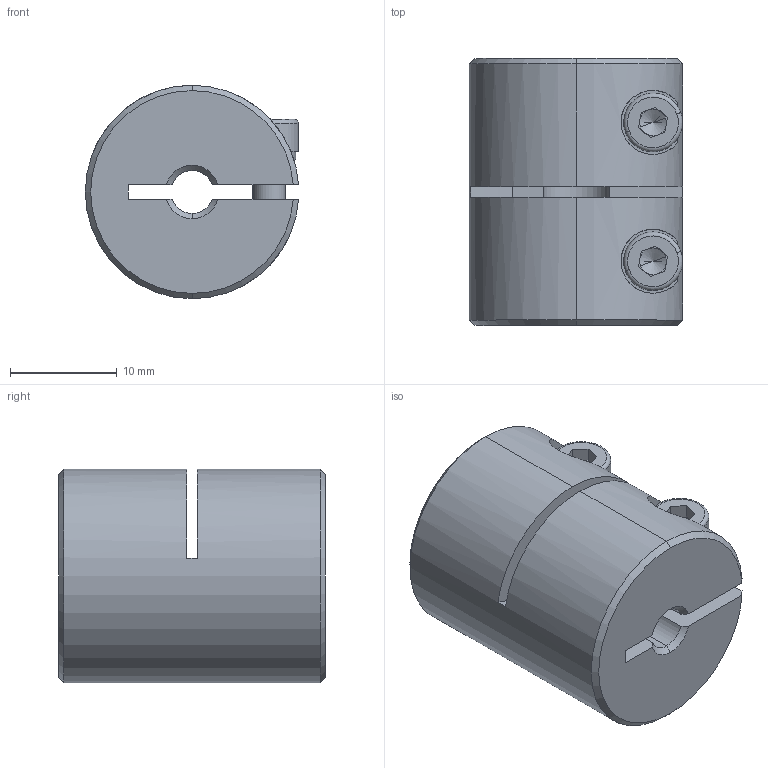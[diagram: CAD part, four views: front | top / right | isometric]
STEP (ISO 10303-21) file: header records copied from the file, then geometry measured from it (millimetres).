
FILE_DESCRIPTION (( 'STEP AP203' ), '1' );
FILE_NAME ('LL-B-D20L25-4-6.35.STEP', '2021-11-05T03:26:23', ( '' ), ( '' ), 'SwSTEP 2.0', 'SolidWorks 2018', '' );
FILE_SCHEMA (( 'CONFIG_CONTROL_DESIGN' ));
Length unit declared in the file: millimetre
Products named in the file (1): LL-B-D20L25-4-6.35
Bounding box: 19.98 x 25 x 20 mm (x, y, z)
Volume: 6687.8 mm3; surface area: 3622.9 mm2
Topology: 1 solids, 1 shells, 116 faces, 300 edges, 188 vertices
Faces by surface type: plane 53, cylinder 43, cone 16, torus 4
Entity records: 3789 total; most frequent: CARTESIAN_POINT 835, DIRECTION 630, ORIENTED_EDGE 592, EDGE_CURVE 296, AXIS2_PLACEMENT_3D 243, VERTEX_POINT 188, VECTOR 144, LINE 144
